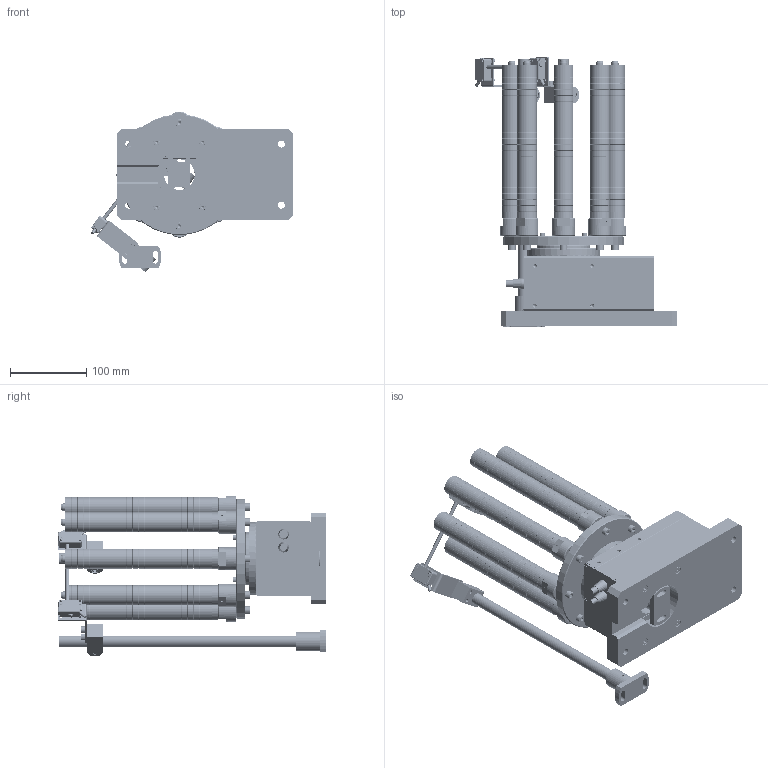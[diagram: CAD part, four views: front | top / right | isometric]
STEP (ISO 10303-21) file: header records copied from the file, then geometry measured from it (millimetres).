
FILE_DESCRIPTION (( 'STEP AP214' ), '1' );
FILE_NAME ('newローターリーストッカーASSY満杯.STEP', '2025-10-22T08:24:26', ( '' ), ( '' ), 'SwSTEP 2.0', 'SolidWorks 2023', '' );
FILE_SCHEMA (( 'AUTOMOTIVE_DESIGN' ));
Length unit declared in the file: millimetre
Products named in the file (1): newローターリーストッカーASSY満杯
Bounding box: 264.06 x 352 x 210.45 mm (x, y, z)
Volume: 2913163.1 mm3; surface area: 1318265 mm2
Topology: 3897 solids, 3897 shells, 20704 faces, 51113 edges, 33333 vertices
Faces by surface type: cylinder 7048, sphere 5850, plane 3994, torus 3310, cone 502
Entity records: 781034 total; most frequent: DIRECTION 103930, CARTESIAN_POINT 82864, ORIENTED_EDGE 72688, AXIS2_PLACEMENT_3D 46989, EDGE_CURVE 36344, CIRCLE 26284, UNCERTAINTY_MEASURE_WITH_UNIT 24602, COLOUR_RGB 24601
